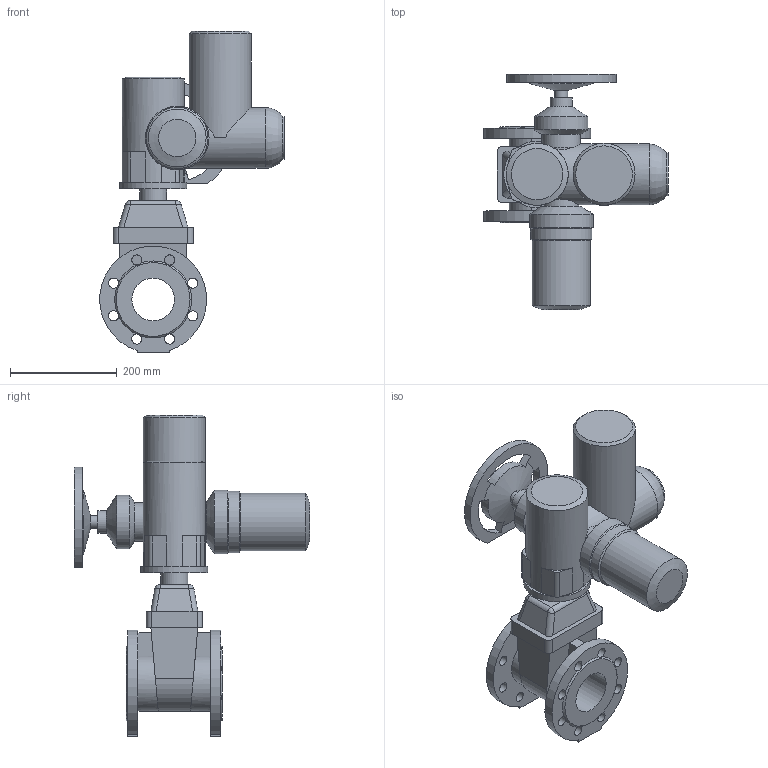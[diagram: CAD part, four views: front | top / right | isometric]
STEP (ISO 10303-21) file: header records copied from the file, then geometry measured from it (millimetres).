
FILE_DESCRIPTION(('STEP AP203'), '1');
FILE_NAME('青溻桄赅 47GVA DN80 PN10_PN16+MT903.A07', '', ('UNSPECIFIED'), ('UNSPECIFIED'), 'ASCON STEP Converter 1.6', 'ASCON Math Kernel', '');
FILE_SCHEMA(('CONFIG_CONTROL_DESIGN'));
Length unit declared in the file: millimetre
Bounding box: 344.8 x 440 x 602 mm (x, y, z)
Volume: 11698821.6 mm3; surface area: 726825 mm2
Topology: 2 solids, 2 shells, 193 faces, 532 edges, 342 vertices
Faces by surface type: plane 92, cylinder 85, cone 11, bspline 4, torus 1
Full cylindrical faces by diameter (mm): 8.5 x4, 12 x4, 19 x16, 20 x1, 24 x1, 42 x1, 50 x1, 66 x1, 70 x2, 72 x1, 80 x2, 100 x1, 108 x1, 114 x1, 115 x1, 116 x2, 119 x1, 125 x1
Entity records: 10320 total; most frequent: CARTESIAN_POINT 3939, DIRECTION 996, ORIENTED_EDGE 940, EDGE_CURVE 470, AXIS2_PLACEMENT_3D 393, VERTEX_POINT 340, EDGE_LOOP 300, FACE_BOUND 216
